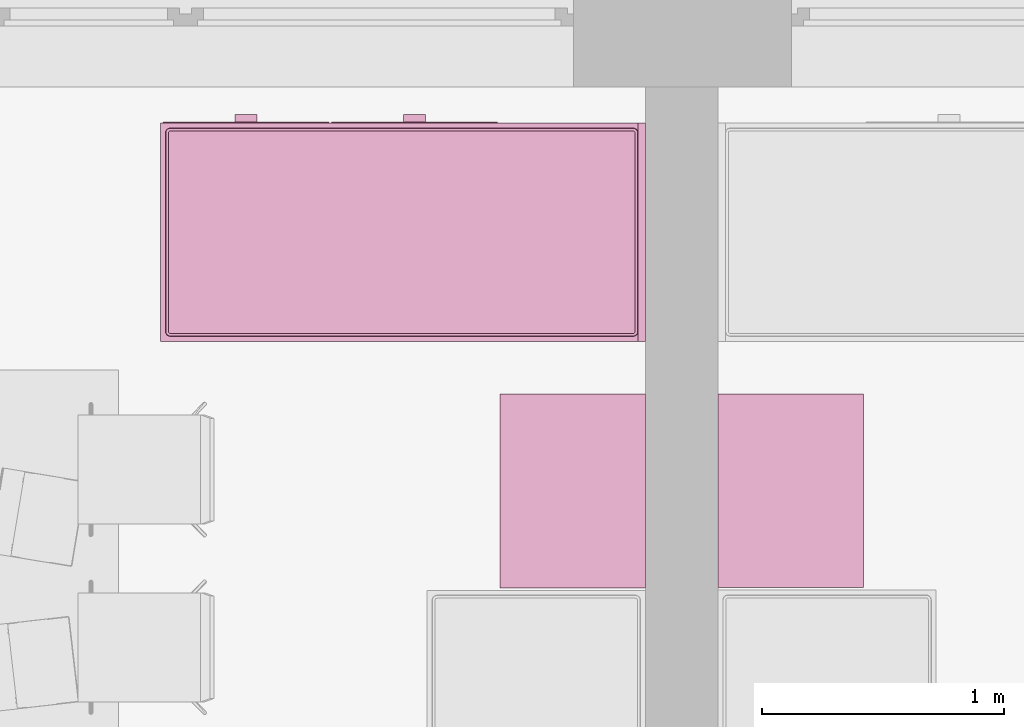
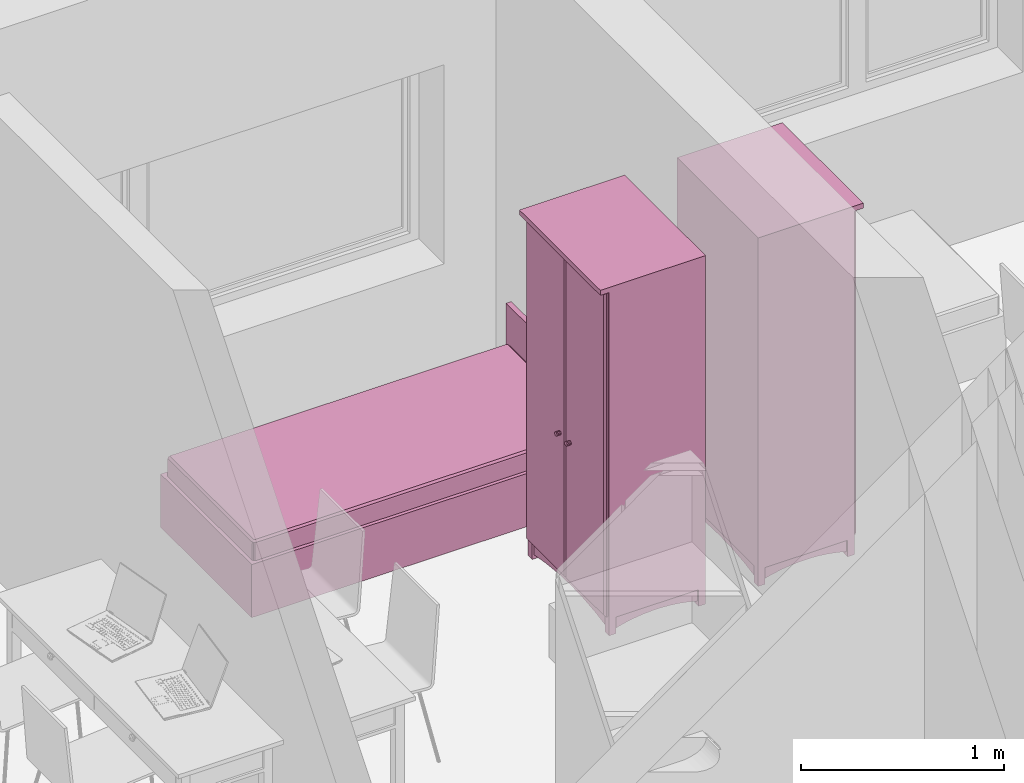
# One storey, part 132 of 165: 3 furnishings.
"""IFC2X3 building model written with IfcOpenShell, lengths in millimetres."""

from ifc_helpers import new_model, entity, si_unit, converted_unit, money_unit, direction, frame, origin_with_axes, place, context, subcontext, project, spatial, faceted_brep, source, transform, mapped, material, material_list, type_object, element, save


model = new_model("IFC2X3")

# Units and contexts
model_context = context("Model", 3, precision=1e-05, world=origin_with_axes(), true_north=direction((0.0, 1.0)))
body_context = subcontext(model_context, "Body", "Model", "MODEL_VIEW")
ifc_project = project(units=[si_unit("LENGTHUNIT", "METRE", prefix="MILLI"), si_unit("AREAUNIT", "SQUARE_METRE"), si_unit("VOLUMEUNIT", "CUBIC_METRE"), converted_unit("PLANEANGLEUNIT", "DEGREE", entity("IfcPlaneAngleMeasure", 0.0174532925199), si_unit("PLANEANGLEUNIT", "RADIAN"), dimensions=[0, 0, 0, 0, 0, 0, 0]), si_unit("SOLIDANGLEUNIT", "STERADIAN"), money_unit("USD"), converted_unit("TIMEUNIT", "Year", entity("IfcTimeMeasure", 31556926.0), si_unit("TIMEUNIT", "SECOND"), dimensions=[0, 0, 0, 0, 0, 0, 0]), si_unit("MASSUNIT", "GRAM"), si_unit("THERMODYNAMICTEMPERATUREUNIT", "DEGREE_CELSIUS"), si_unit("LUMINOUSINTENSITYUNIT", "LUMEN")], contexts=[model_context])

# Site, building, storey
site_placement = place(None, origin_with_axes())
site = spatial("IfcSite", under=ifc_project, at=site_placement, Name="Site", CompositionType="ELEMENT")
building_placement = place(site_placement, origin_with_axes())
building = spatial("IfcBuilding", under=site, at=building_placement, Name="Building", CompositionType="ELEMENT")
storey_placement = place(building_placement, frame((0.0, 0.0, 6300.0), z_axis=(0.0, 0.0, 1.0), x_axis=(1.0, 0.0, 0.0)))
storey = spatial("IfcBuildingStorey", under=building, at=storey_placement, Name="4KORRUS", CompositionType="ELEMENT", Elevation=6300.0)

# Furnishings
ifc_material = material(Name="Background")
ifc_material_list = material_list([ifc_material])
furnishing_element_type_1 = type_object("IfcFurnishingElementType", Name="Cupboard 19")
shared_shape_1 = source(origin_with_axes(), body_context, "Body", "Brep", [
    faceted_brep([(780.0, 600.0, 120.0), (780.0, 600.0, 2050.0), (780.0, 580.0, 2050.0), (780.0, 580.0, 120.0), (20.0, 600.0, 120.0), (20.0, 600.0, 2050.0), (20.0, 580.0, 2050.0), (20.0, 580.0, 120.0)], [[[0, 1, 2, 3]], [[4, 5, 1, 0]], [[1, 5, 6, 2]], [[3, 2, 6, 7]], [[0, 3, 7, 4]], [[7, 6, 5, 4]]]),
    faceted_brep([(0.0, 50.0, 100.0), (0.0, 600.0, 100.0), (20.0, 600.0, 100.0), (20.0, 50.0, 100.0), (0.0, 50.0, 2070.0), (0.0, 600.0, 2070.0), (20.0, 600.0, 2070.0), (20.0, 50.0, 2070.0)], [[[0, 1, 2, 3]], [[0, 4, 5, 1]], [[1, 5, 6, 2]], [[2, 6, 7, 3]], [[3, 7, 4, 0]], [[7, 6, 5, 4]]]),
    faceted_brep([(780.0, 50.0, 100.0), (780.0, 600.0, 100.0), (800.0, 600.0, 100.0), (800.0, 50.0, 100.0), (780.0, 50.0, 2070.0), (780.0, 600.0, 2070.0), (800.0, 600.0, 2070.0), (800.0, 50.0, 2070.0)], [[[0, 1, 2, 3]], [[0, 4, 5, 1]], [[1, 5, 6, 2]], [[2, 6, 7, 3]], [[3, 7, 4, 0]], [[7, 6, 5, 4]]]),
    faceted_brep([(20.0, 50.0, 100.0), (20.0, 600.0, 100.0), (780.0, 600.0, 100.0), (780.0, 50.0, 100.0), (20.0, 50.0, 120.0), (20.0, 600.0, 120.0), (780.0, 600.0, 120.0), (780.0, 50.0, 120.0)], [[[0, 1, 2, 3]], [[0, 4, 5, 1]], [[1, 5, 6, 2]], [[2, 6, 7, 3]], [[3, 7, 4, 0]], [[7, 6, 5, 4]]]),
    faceted_brep([(20.0, 50.0, 2050.0), (20.0, 600.0, 2050.0), (780.0, 600.0, 2050.0), (780.0, 50.0, 2050.0), (20.0, 50.0, 2070.0), (20.0, 600.0, 2070.0), (780.0, 600.0, 2070.0), (780.0, 50.0, 2070.0)], [[[0, 1, 2, 3]], [[0, 4, 5, 1]], [[1, 5, 6, 2]], [[2, 6, 7, 3]], [[3, 7, 4, 0]], [[7, 6, 5, 4]]]),
    faceted_brep([(0.0, 600.0, 2070.0), (0.0, 0.0, 2070.0), (0.0, 0.0, 2100.0), (0.0, 600.0, 2100.0), (800.0, 600.0, 2070.0), (800.0, 0.0, 2070.0), (800.0, 0.0, 2100.0), (800.0, 600.0, 2100.0)], [[[0, 1, 2, 3]], [[0, 4, 5, 1]], [[1, 5, 6, 2]], [[3, 2, 6, 7]], [[4, 0, 3, 7]], [[5, 4, 7, 6]]]),
    faceted_brep([(760.0, 590.0, 25.0), (760.0, 570.0, 25.0), (640.962, 570.0, 45.8), (640.962, 590.0, 45.8), (760.0, 590.0, 100.0), (760.0, 570.0, 100.0), (40.0, 570.0, 100.0), (40.0, 570.0, 25.0), (159.038, 570.0, 45.8), (279.23, 570.0, 58.32), (400.0, 570.0, 62.5), (520.77, 570.0, 58.32), (520.77, 590.0, 58.32), (400.0, 590.0, 62.5), (279.23, 590.0, 58.32), (159.038, 590.0, 45.8), (40.0, 590.0, 25.0), (40.0, 590.0, 100.0)], [[[0, 1, 2, 3]], [[4, 5, 1, 0]], [[1, 5, 6, 7, 8, 9, 10, 11, 2]], [[3, 2, 11, 12]], [[0, 3, 12, 13, 14, 15, 16, 17, 4]], [[17, 6, 5, 4]], [[16, 7, 6, 17]], [[15, 8, 7, 16]], [[14, 9, 8, 15]], [[13, 10, 9, 14]], [[12, 11, 10, 13]]]),
    faceted_brep([(760.0, 80.0, 25.0), (760.0, 60.0, 25.0), (640.962, 60.0, 45.8), (640.962, 80.0, 45.8), (760.0, 80.0, 100.0), (760.0, 60.0, 100.0), (40.0, 60.0, 100.0), (40.0, 60.0, 25.0), (159.038, 60.0, 45.8), (279.23, 60.0, 58.32), (400.0, 60.0, 62.5), (520.77, 60.0, 58.32), (520.77, 80.0, 58.32), (400.0, 80.0, 62.5), (279.23, 80.0, 58.32), (159.038, 80.0, 45.8), (40.0, 80.0, 25.0), (40.0, 80.0, 100.0)], [[[0, 1, 2, 3]], [[4, 5, 1, 0]], [[1, 5, 6, 7, 8, 9, 10, 11, 2]], [[3, 2, 11, 12]], [[0, 3, 12, 13, 14, 15, 16, 17, 4]], [[17, 6, 5, 4]], [[16, 7, 6, 17]], [[15, 8, 7, 16]], [[14, 9, 8, 15]], [[13, 10, 9, 14]], [[12, 11, 10, 13]]]),
    faceted_brep([(790.0, 90.0, 25.0), (770.0, 90.0, 25.0), (770.0, 141.266, 38.072), (790.0, 141.266, 38.072), (790.0, 90.0, 100.0), (770.0, 90.0, 100.0), (770.0, 560.0, 100.0), (770.0, 560.0, 25.0), (770.0, 508.734, 38.072), (770.0, 456.752, 47.92), (770.0, 404.257, 54.508), (770.0, 351.453, 57.808), (770.0, 298.547, 57.808), (770.0, 245.743, 54.508), (770.0, 193.248, 47.92), (790.0, 193.248, 47.92), (790.0, 245.743, 54.508), (790.0, 298.547, 57.808), (790.0, 351.453, 57.808), (790.0, 404.257, 54.508), (790.0, 456.752, 47.92), (790.0, 508.734, 38.072), (790.0, 560.0, 25.0), (790.0, 560.0, 100.0)], [[[0, 1, 2, 3]], [[4, 5, 1, 0]], [[1, 5, 6, 7, 8, 9, 10, 11, 12, 13, 14, 2]], [[3, 2, 14, 15]], [[0, 3, 15, 16, 17, 18, 19, 20, 21, 22, 23, 4]], [[23, 6, 5, 4]], [[22, 7, 6, 23]], [[21, 8, 7, 22]], [[20, 9, 8, 21]], [[19, 10, 9, 20]], [[18, 11, 10, 19]], [[17, 12, 11, 18]], [[16, 13, 12, 17]], [[15, 14, 13, 16]]]),
    faceted_brep([(30.0, 90.0, 25.0), (10.0, 90.0, 25.0), (10.0, 141.266, 38.072), (30.0, 141.266, 38.072), (30.0, 90.0, 100.0), (10.0, 90.0, 100.0), (10.0, 560.0, 100.0), (10.0, 560.0, 25.0), (10.0, 508.734, 38.072), (10.0, 456.752, 47.92), (10.0, 404.257, 54.508), (10.0, 351.453, 57.808), (10.0, 298.547, 57.808), (10.0, 245.743, 54.508), (10.0, 193.248, 47.92), (30.0, 193.248, 47.92), (30.0, 245.743, 54.508), (30.0, 298.547, 57.808), (30.0, 351.453, 57.808), (30.0, 404.257, 54.508), (30.0, 456.752, 47.92), (30.0, 508.734, 38.072), (30.0, 560.0, 25.0), (30.0, 560.0, 100.0)], [[[0, 1, 2, 3]], [[4, 5, 1, 0]], [[1, 5, 6, 7, 8, 9, 10, 11, 12, 13, 14, 2]], [[3, 2, 14, 15]], [[0, 3, 15, 16, 17, 18, 19, 20, 21, 22, 23, 4]], [[23, 6, 5, 4]], [[22, 7, 6, 23]], [[21, 8, 7, 22]], [[20, 9, 8, 21]], [[19, 10, 9, 20]], [[18, 11, 10, 19]], [[17, 12, 11, 18]], [[16, 13, 12, 17]], [[15, 14, 13, 16]]]),
    faceted_brep([(760.0, 560.0, 0.0), (760.0, 560.0, 100.0), (760.0, 600.0, 100.0), (760.0, 600.0, 0.0), (800.0, 560.0, 0.0), (800.0, 560.0, 100.0), (800.0, 600.0, 100.0), (800.0, 600.0, 0.0)], [[[0, 1, 2, 3]], [[4, 5, 1, 0]], [[1, 5, 6, 2]], [[3, 2, 6, 7]], [[0, 3, 7, 4]], [[7, 6, 5, 4]]]),
    faceted_brep([(0.0, 560.0, 0.0), (0.0, 560.0, 100.0), (0.0, 600.0, 100.0), (0.0, 600.0, 0.0), (40.0, 560.0, 0.0), (40.0, 560.0, 100.0), (40.0, 600.0, 100.0), (40.0, 600.0, 0.0)], [[[0, 1, 2, 3]], [[4, 5, 1, 0]], [[1, 5, 6, 2]], [[3, 2, 6, 7]], [[0, 3, 7, 4]], [[7, 6, 5, 4]]]),
    faceted_brep([(760.0, 50.0, 0.0), (760.0, 50.0, 100.0), (760.0, 90.0, 100.0), (760.0, 90.0, 0.0), (800.0, 50.0, 0.0), (800.0, 50.0, 100.0), (800.0, 90.0, 100.0), (800.0, 90.0, 0.0)], [[[0, 1, 2, 3]], [[4, 5, 1, 0]], [[1, 5, 6, 2]], [[3, 2, 6, 7]], [[0, 3, 7, 4]], [[7, 6, 5, 4]]]),
    faceted_brep([(0.0, 50.0, 0.0), (0.0, 50.0, 100.0), (0.0, 90.0, 100.0), (0.0, 90.0, 0.0), (40.0, 50.0, 0.0), (40.0, 50.0, 100.0), (40.0, 90.0, 100.0), (40.0, 90.0, 0.0)], [[[0, 1, 2, 3]], [[4, 5, 1, 0]], [[1, 5, 6, 2]], [[3, 2, 6, 7]], [[0, 3, 7, 4]], [[7, 6, 5, 4]]]),
    faceted_brep([(780.0, 580.0, 587.5), (780.0, 580.0, 607.5), (780.0, 50.0, 607.5), (780.0, 50.0, 587.5), (20.0, 580.0, 587.5), (20.0, 580.0, 607.5), (20.0, 50.0, 607.5), (20.0, 50.0, 587.5)], [[[0, 1, 2, 3]], [[4, 5, 1, 0]], [[1, 5, 6, 2]], [[3, 2, 6, 7]], [[0, 3, 7, 4]], [[7, 6, 5, 4]]]),
    faceted_brep([(780.0, 580.0, 1075.0), (780.0, 580.0, 1095.0), (780.0, 50.0, 1095.0), (780.0, 50.0, 1075.0), (20.0, 580.0, 1075.0), (20.0, 580.0, 1095.0), (20.0, 50.0, 1095.0), (20.0, 50.0, 1075.0)], [[[0, 1, 2, 3]], [[4, 5, 1, 0]], [[1, 5, 6, 2]], [[3, 2, 6, 7]], [[0, 3, 7, 4]], [[7, 6, 5, 4]]]),
    faceted_brep([(780.0, 580.0, 1562.5), (780.0, 580.0, 1582.5), (780.0, 50.0, 1582.5), (780.0, 50.0, 1562.5), (20.0, 580.0, 1562.5), (20.0, 580.0, 1582.5), (20.0, 50.0, 1582.5), (20.0, 50.0, 1562.5)], [[[0, 1, 2, 3]], [[4, 5, 1, 0]], [[1, 5, 6, 2]], [[3, 2, 6, 7]], [[0, 3, 7, 4]], [[7, 6, 5, 4]]]),
    faceted_brep([(789.5, 50.0, 110.5), (400.5, 50.0, 110.5), (400.5, 50.0, 2059.5), (789.5, 50.0, 2059.5), (789.5, 40.0, 110.5), (400.5, 40.0, 110.5), (400.5, 40.0, 2059.5), (789.5, 40.0, 2059.5), (779.5, 30.0, 120.5), (410.5, 30.0, 120.5), (410.5, 30.0, 2049.5), (779.5, 30.0, 2049.5)], [[[0, 1, 2, 3]], [[0, 4, 5, 1]], [[1, 5, 6, 2]], [[2, 6, 7, 3]], [[3, 7, 4, 0]], [[4, 8, 9, 5]], [[5, 9, 10, 6]], [[6, 10, 11, 7]], [[7, 11, 8, 4]], [[10, 9, 8, 11]]]),
    faceted_brep([(399.5, 50.0, 110.5), (10.5, 50.0, 110.5), (10.5, 50.0, 2059.5), (399.5, 50.0, 2059.5), (399.5, 40.0, 110.5), (10.5, 40.0, 110.5), (10.5, 40.0, 2059.5), (399.5, 40.0, 2059.5), (389.5, 30.0, 120.5), (20.5, 30.0, 120.5), (20.5, 30.0, 2049.5), (389.5, 30.0, 2049.5)], [[[0, 1, 2, 3]], [[0, 4, 5, 1]], [[1, 5, 6, 2]], [[2, 6, 7, 3]], [[3, 7, 4, 0]], [[4, 8, 9, 5]], [[5, 9, 10, 6]], [[6, 10, 11, 7]], [[7, 11, 8, 4]], [[10, 9, 8, 11]]]),
    faceted_brep([(339.608, 30.0, 954.0), (338.0, 30.0, 960.0), (339.608, 30.0, 966.0), (344.0, 30.0, 970.392), (350.0, 30.0, 972.0), (356.0, 30.0, 970.392), (360.392, 30.0, 966.0), (362.0, 30.0, 960.0), (360.392, 30.0, 954.0), (356.0, 30.0, 949.608), (350.0, 30.0, 948.0), (344.0, 30.0, 949.608), (339.608, 5.0, 954.0), (338.0, 5.0, 960.0), (339.608, 5.0, 966.0), (344.0, 5.0, 970.392), (350.0, 5.0, 972.0), (356.0, 5.0, 970.392), (360.392, 5.0, 966.0), (362.0, 5.0, 960.0), (360.392, 5.0, 954.0), (356.0, 5.0, 949.608), (350.0, 5.0, 948.0), (344.0, 5.0, 949.608)], [[[0, 1, 2, 3, 4, 5, 6, 7, 8, 9, 10, 11]], [[0, 12, 13, 1]], [[1, 13, 14, 2]], [[2, 14, 15, 3]], [[3, 15, 16, 4]], [[4, 16, 17, 5]], [[5, 17, 18, 6]], [[6, 18, 19, 7]], [[7, 19, 20, 8]], [[8, 20, 21, 9]], [[9, 21, 22, 10]], [[10, 22, 23, 11]], [[11, 23, 12, 0]], [[12, 23, 22, 21, 20, 19, 18, 17, 16, 15, 14, 13]]]),
    faceted_brep([(460.392, 30.0, 954.0), (456.0, 30.0, 949.608), (450.0, 30.0, 948.0), (444.0, 30.0, 949.608), (439.608, 30.0, 954.0), (438.0, 30.0, 960.0), (439.608, 30.0, 966.0), (444.0, 30.0, 970.392), (450.0, 30.0, 972.0), (456.0, 30.0, 970.392), (460.392, 30.0, 966.0), (462.0, 30.0, 960.0), (460.392, 5.0, 954.0), (456.0, 5.0, 949.608), (450.0, 5.0, 948.0), (444.0, 5.0, 949.608), (439.608, 5.0, 954.0), (438.0, 5.0, 960.0), (439.608, 5.0, 966.0), (444.0, 5.0, 970.392), (450.0, 5.0, 972.0), (456.0, 5.0, 970.392), (460.392, 5.0, 966.0), (462.0, 5.0, 960.0)], [[[0, 1, 2, 3, 4, 5, 6, 7, 8, 9, 10, 11]], [[1, 0, 12, 13]], [[2, 1, 13, 14]], [[3, 2, 14, 15]], [[4, 3, 15, 16]], [[5, 4, 16, 17]], [[6, 5, 17, 18]], [[7, 6, 18, 19]], [[8, 7, 19, 20]], [[9, 8, 20, 21]], [[10, 9, 21, 22]], [[11, 10, 22, 23]], [[0, 11, 23, 12]], [[12, 23, 22, 21, 20, 19, 18, 17, 16, 15, 14, 13]]]),
])
furnishing_1_placement = place(storey_placement, frame((609.703296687, -7206.41563755, 0.0), z_axis=(0.0, 0.0, 1.0), x_axis=(0.0, 1.0, 0.0)))
element("IfcFurnishingElement", 1, at=furnishing_1_placement, inside=storey, type_object=furnishing_element_type_1, material=ifc_material_list, Name="FU - 014", context=body_context, shape_type="MappedRepresentation", body=[
    mapped(shared_shape_1, transform((0.0, 0.0, 0.0))),
])
shared_shape_2 = source(origin_with_axes(), body_context, "Body", "Brep", [
    faceted_brep([(-780.0, 600.0, 120.0), (-780.0, 580.0, 120.0), (-780.0, 580.0, 2050.0), (-780.0, 600.0, 2050.0), (-20.0, 600.0, 120.0), (-20.0, 580.0, 120.0), (-20.0, 580.0, 2050.0), (-20.0, 600.0, 2050.0)], [[[0, 1, 2, 3]], [[0, 4, 5, 1]], [[1, 5, 6, 2]], [[3, 2, 6, 7]], [[4, 0, 3, 7]], [[5, 4, 7, 6]]]),
    faceted_brep([(0.0, 50.0, 100.0), (-20.0, 50.0, 100.0), (-20.0, 600.0, 100.0), (0.0, 600.0, 100.0), (0.0, 50.0, 2070.0), (-20.0, 50.0, 2070.0), (-20.0, 600.0, 2070.0), (0.0, 600.0, 2070.0)], [[[0, 1, 2, 3]], [[1, 0, 4, 5]], [[2, 1, 5, 6]], [[3, 2, 6, 7]], [[0, 3, 7, 4]], [[5, 4, 7, 6]]]),
    faceted_brep([(-780.0, 50.0, 100.0), (-800.0, 50.0, 100.0), (-800.0, 600.0, 100.0), (-780.0, 600.0, 100.0), (-780.0, 50.0, 2070.0), (-800.0, 50.0, 2070.0), (-800.0, 600.0, 2070.0), (-780.0, 600.0, 2070.0)], [[[0, 1, 2, 3]], [[1, 0, 4, 5]], [[2, 1, 5, 6]], [[3, 2, 6, 7]], [[0, 3, 7, 4]], [[5, 4, 7, 6]]]),
    faceted_brep([(-20.0, 50.0, 100.0), (-780.0, 50.0, 100.0), (-780.0, 600.0, 100.0), (-20.0, 600.0, 100.0), (-20.0, 50.0, 120.0), (-780.0, 50.0, 120.0), (-780.0, 600.0, 120.0), (-20.0, 600.0, 120.0)], [[[0, 1, 2, 3]], [[1, 0, 4, 5]], [[2, 1, 5, 6]], [[3, 2, 6, 7]], [[0, 3, 7, 4]], [[5, 4, 7, 6]]]),
    faceted_brep([(-20.0, 50.0, 2050.0), (-780.0, 50.0, 2050.0), (-780.0, 600.0, 2050.0), (-20.0, 600.0, 2050.0), (-20.0, 50.0, 2070.0), (-780.0, 50.0, 2070.0), (-780.0, 600.0, 2070.0), (-20.0, 600.0, 2070.0)], [[[0, 1, 2, 3]], [[1, 0, 4, 5]], [[2, 1, 5, 6]], [[3, 2, 6, 7]], [[0, 3, 7, 4]], [[5, 4, 7, 6]]]),
    faceted_brep([(0.0, 600.0, 2070.0), (0.0, 600.0, 2100.0), (0.0, 0.0, 2100.0), (0.0, 0.0, 2070.0), (-800.0, 600.0, 2070.0), (-800.0, 600.0, 2100.0), (-800.0, 0.0, 2100.0), (-800.0, 0.0, 2070.0)], [[[0, 1, 2, 3]], [[4, 5, 1, 0]], [[1, 5, 6, 2]], [[3, 2, 6, 7]], [[0, 3, 7, 4]], [[7, 6, 5, 4]]]),
    faceted_brep([(-760.0, 590.0, 25.0), (-640.962, 590.0, 45.8), (-640.962, 570.0, 45.8), (-760.0, 570.0, 25.0), (-760.0, 590.0, 100.0), (-40.0, 590.0, 100.0), (-40.0, 590.0, 25.0), (-159.038, 590.0, 45.8), (-279.23, 590.0, 58.32), (-400.0, 590.0, 62.5), (-520.77, 590.0, 58.32), (-520.77, 570.0, 58.32), (-400.0, 570.0, 62.5), (-279.23, 570.0, 58.32), (-159.038, 570.0, 45.8), (-40.0, 570.0, 25.0), (-40.0, 570.0, 100.0), (-760.0, 570.0, 100.0)], [[[0, 1, 2, 3]], [[0, 4, 5, 6, 7, 8, 9, 10, 1]], [[1, 10, 11, 2]], [[3, 2, 11, 12, 13, 14, 15, 16, 17]], [[4, 0, 3, 17]], [[5, 4, 17, 16]], [[6, 5, 16, 15]], [[7, 6, 15, 14]], [[8, 7, 14, 13]], [[9, 8, 13, 12]], [[10, 9, 12, 11]]]),
    faceted_brep([(-760.0, 80.0, 25.0), (-640.962, 80.0, 45.8), (-640.962, 60.0, 45.8), (-760.0, 60.0, 25.0), (-760.0, 80.0, 100.0), (-40.0, 80.0, 100.0), (-40.0, 80.0, 25.0), (-159.038, 80.0, 45.8), (-279.23, 80.0, 58.32), (-400.0, 80.0, 62.5), (-520.77, 80.0, 58.32), (-520.77, 60.0, 58.32), (-400.0, 60.0, 62.5), (-279.23, 60.0, 58.32), (-159.038, 60.0, 45.8), (-40.0, 60.0, 25.0), (-40.0, 60.0, 100.0), (-760.0, 60.0, 100.0)], [[[0, 1, 2, 3]], [[0, 4, 5, 6, 7, 8, 9, 10, 1]], [[1, 10, 11, 2]], [[3, 2, 11, 12, 13, 14, 15, 16, 17]], [[4, 0, 3, 17]], [[5, 4, 17, 16]], [[6, 5, 16, 15]], [[7, 6, 15, 14]], [[8, 7, 14, 13]], [[9, 8, 13, 12]], [[10, 9, 12, 11]]]),
    faceted_brep([(-790.0, 90.0, 25.0), (-790.0, 141.266, 38.072), (-770.0, 141.266, 38.072), (-770.0, 90.0, 25.0), (-790.0, 90.0, 100.0), (-790.0, 560.0, 100.0), (-790.0, 560.0, 25.0), (-790.0, 508.734, 38.072), (-790.0, 456.752, 47.92), (-790.0, 404.257, 54.508), (-790.0, 351.453, 57.808), (-790.0, 298.547, 57.808), (-790.0, 245.743, 54.508), (-790.0, 193.248, 47.92), (-770.0, 193.248, 47.92), (-770.0, 245.743, 54.508), (-770.0, 298.547, 57.808), (-770.0, 351.453, 57.808), (-770.0, 404.257, 54.508), (-770.0, 456.752, 47.92), (-770.0, 508.734, 38.072), (-770.0, 560.0, 25.0), (-770.0, 560.0, 100.0), (-770.0, 90.0, 100.0)], [[[0, 1, 2, 3]], [[0, 4, 5, 6, 7, 8, 9, 10, 11, 12, 13, 1]], [[1, 13, 14, 2]], [[3, 2, 14, 15, 16, 17, 18, 19, 20, 21, 22, 23]], [[4, 0, 3, 23]], [[5, 4, 23, 22]], [[6, 5, 22, 21]], [[7, 6, 21, 20]], [[8, 7, 20, 19]], [[9, 8, 19, 18]], [[10, 9, 18, 17]], [[11, 10, 17, 16]], [[12, 11, 16, 15]], [[13, 12, 15, 14]]]),
    faceted_brep([(-30.0, 90.0, 25.0), (-30.0, 141.266, 38.072), (-10.0, 141.266, 38.072), (-10.0, 90.0, 25.0), (-30.0, 90.0, 100.0), (-30.0, 560.0, 100.0), (-30.0, 560.0, 25.0), (-30.0, 508.734, 38.072), (-30.0, 456.752, 47.92), (-30.0, 404.257, 54.508), (-30.0, 351.453, 57.808), (-30.0, 298.547, 57.808), (-30.0, 245.743, 54.508), (-30.0, 193.248, 47.92), (-10.0, 193.248, 47.92), (-10.0, 245.743, 54.508), (-10.0, 298.547, 57.808), (-10.0, 351.453, 57.808), (-10.0, 404.257, 54.508), (-10.0, 456.752, 47.92), (-10.0, 508.734, 38.072), (-10.0, 560.0, 25.0), (-10.0, 560.0, 100.0), (-10.0, 90.0, 100.0)], [[[0, 1, 2, 3]], [[0, 4, 5, 6, 7, 8, 9, 10, 11, 12, 13, 1]], [[1, 13, 14, 2]], [[3, 2, 14, 15, 16, 17, 18, 19, 20, 21, 22, 23]], [[4, 0, 3, 23]], [[5, 4, 23, 22]], [[6, 5, 22, 21]], [[7, 6, 21, 20]], [[8, 7, 20, 19]], [[9, 8, 19, 18]], [[10, 9, 18, 17]], [[11, 10, 17, 16]], [[12, 11, 16, 15]], [[13, 12, 15, 14]]]),
    faceted_brep([(-760.0, 560.0, 0.0), (-760.0, 600.0, 0.0), (-760.0, 600.0, 100.0), (-760.0, 560.0, 100.0), (-800.0, 560.0, 0.0), (-800.0, 600.0, 0.0), (-800.0, 600.0, 100.0), (-800.0, 560.0, 100.0)], [[[0, 1, 2, 3]], [[0, 4, 5, 1]], [[1, 5, 6, 2]], [[3, 2, 6, 7]], [[4, 0, 3, 7]], [[5, 4, 7, 6]]]),
    faceted_brep([(0.0, 560.0, 0.0), (0.0, 600.0, 0.0), (0.0, 600.0, 100.0), (0.0, 560.0, 100.0), (-40.0, 560.0, 0.0), (-40.0, 600.0, 0.0), (-40.0, 600.0, 100.0), (-40.0, 560.0, 100.0)], [[[0, 1, 2, 3]], [[0, 4, 5, 1]], [[1, 5, 6, 2]], [[3, 2, 6, 7]], [[4, 0, 3, 7]], [[5, 4, 7, 6]]]),
    faceted_brep([(-760.0, 50.0, 0.0), (-760.0, 90.0, 0.0), (-760.0, 90.0, 100.0), (-760.0, 50.0, 100.0), (-800.0, 50.0, 0.0), (-800.0, 90.0, 0.0), (-800.0, 90.0, 100.0), (-800.0, 50.0, 100.0)], [[[0, 1, 2, 3]], [[0, 4, 5, 1]], [[1, 5, 6, 2]], [[3, 2, 6, 7]], [[4, 0, 3, 7]], [[5, 4, 7, 6]]]),
    faceted_brep([(0.0, 50.0, 0.0), (0.0, 90.0, 0.0), (0.0, 90.0, 100.0), (0.0, 50.0, 100.0), (-40.0, 50.0, 0.0), (-40.0, 90.0, 0.0), (-40.0, 90.0, 100.0), (-40.0, 50.0, 100.0)], [[[0, 1, 2, 3]], [[0, 4, 5, 1]], [[1, 5, 6, 2]], [[3, 2, 6, 7]], [[4, 0, 3, 7]], [[5, 4, 7, 6]]]),
    faceted_brep([(-780.0, 580.0, 587.5), (-780.0, 50.0, 587.5), (-780.0, 50.0, 607.5), (-780.0, 580.0, 607.5), (-20.0, 580.0, 587.5), (-20.0, 50.0, 587.5), (-20.0, 50.0, 607.5), (-20.0, 580.0, 607.5)], [[[0, 1, 2, 3]], [[0, 4, 5, 1]], [[1, 5, 6, 2]], [[3, 2, 6, 7]], [[4, 0, 3, 7]], [[5, 4, 7, 6]]]),
    faceted_brep([(-780.0, 580.0, 1075.0), (-780.0, 50.0, 1075.0), (-780.0, 50.0, 1095.0), (-780.0, 580.0, 1095.0), (-20.0, 580.0, 1075.0), (-20.0, 50.0, 1075.0), (-20.0, 50.0, 1095.0), (-20.0, 580.0, 1095.0)], [[[0, 1, 2, 3]], [[0, 4, 5, 1]], [[1, 5, 6, 2]], [[3, 2, 6, 7]], [[4, 0, 3, 7]], [[5, 4, 7, 6]]]),
    faceted_brep([(-780.0, 580.0, 1562.5), (-780.0, 50.0, 1562.5), (-780.0, 50.0, 1582.5), (-780.0, 580.0, 1582.5), (-20.0, 580.0, 1562.5), (-20.0, 50.0, 1562.5), (-20.0, 50.0, 1582.5), (-20.0, 580.0, 1582.5)], [[[0, 1, 2, 3]], [[0, 4, 5, 1]], [[1, 5, 6, 2]], [[3, 2, 6, 7]], [[4, 0, 3, 7]], [[5, 4, 7, 6]]]),
    faceted_brep([(-789.5, 50.0, 110.5), (-789.5, 50.0, 2059.5), (-400.5, 50.0, 2059.5), (-400.5, 50.0, 110.5), (-789.5, 40.0, 110.5), (-789.5, 40.0, 2059.5), (-400.5, 40.0, 2059.5), (-400.5, 40.0, 110.5), (-779.5, 30.0, 120.5), (-779.5, 30.0, 2049.5), (-410.5, 30.0, 2049.5), (-410.5, 30.0, 120.5)], [[[0, 1, 2, 3]], [[1, 0, 4, 5]], [[2, 1, 5, 6]], [[3, 2, 6, 7]], [[0, 3, 7, 4]], [[5, 4, 8, 9]], [[6, 5, 9, 10]], [[7, 6, 10, 11]], [[4, 7, 11, 8]], [[10, 9, 8, 11]]]),
    faceted_brep([(-399.5, 50.0, 110.5), (-399.5, 50.0, 2059.5), (-10.5, 50.0, 2059.5), (-10.5, 50.0, 110.5), (-399.5, 40.0, 110.5), (-399.5, 40.0, 2059.5), (-10.5, 40.0, 2059.5), (-10.5, 40.0, 110.5), (-389.5, 30.0, 120.5), (-389.5, 30.0, 2049.5), (-20.5, 30.0, 2049.5), (-20.5, 30.0, 120.5)], [[[0, 1, 2, 3]], [[1, 0, 4, 5]], [[2, 1, 5, 6]], [[3, 2, 6, 7]], [[0, 3, 7, 4]], [[5, 4, 8, 9]], [[6, 5, 9, 10]], [[7, 6, 10, 11]], [[4, 7, 11, 8]], [[10, 9, 8, 11]]]),
    faceted_brep([(-339.608, 30.0, 954.0), (-344.0, 30.0, 949.608), (-350.0, 30.0, 948.0), (-356.0, 30.0, 949.608), (-360.392, 30.0, 954.0), (-362.0, 30.0, 960.0), (-360.392, 30.0, 966.0), (-356.0, 30.0, 970.392), (-350.0, 30.0, 972.0), (-344.0, 30.0, 970.392), (-339.608, 30.0, 966.0), (-338.0, 30.0, 960.0), (-339.608, 5.0, 954.0), (-344.0, 5.0, 949.608), (-350.0, 5.0, 948.0), (-356.0, 5.0, 949.608), (-360.392, 5.0, 954.0), (-362.0, 5.0, 960.0), (-360.392, 5.0, 966.0), (-356.0, 5.0, 970.392), (-350.0, 5.0, 972.0), (-344.0, 5.0, 970.392), (-339.608, 5.0, 966.0), (-338.0, 5.0, 960.0)], [[[0, 1, 2, 3, 4, 5, 6, 7, 8, 9, 10, 11]], [[1, 0, 12, 13]], [[2, 1, 13, 14]], [[3, 2, 14, 15]], [[4, 3, 15, 16]], [[5, 4, 16, 17]], [[6, 5, 17, 18]], [[7, 6, 18, 19]], [[8, 7, 19, 20]], [[9, 8, 20, 21]], [[10, 9, 21, 22]], [[11, 10, 22, 23]], [[0, 11, 23, 12]], [[12, 23, 22, 21, 20, 19, 18, 17, 16, 15, 14, 13]]]),
    faceted_brep([(-460.392, 30.0, 954.0), (-462.0, 30.0, 960.0), (-460.392, 30.0, 966.0), (-456.0, 30.0, 970.392), (-450.0, 30.0, 972.0), (-444.0, 30.0, 970.392), (-439.608, 30.0, 966.0), (-438.0, 30.0, 960.0), (-439.608, 30.0, 954.0), (-444.0, 30.0, 949.608), (-450.0, 30.0, 948.0), (-456.0, 30.0, 949.608), (-460.392, 5.0, 954.0), (-462.0, 5.0, 960.0), (-460.392, 5.0, 966.0), (-456.0, 5.0, 970.392), (-450.0, 5.0, 972.0), (-444.0, 5.0, 970.392), (-439.608, 5.0, 966.0), (-438.0, 5.0, 960.0), (-439.608, 5.0, 954.0), (-444.0, 5.0, 949.608), (-450.0, 5.0, 948.0), (-456.0, 5.0, 949.608)], [[[0, 1, 2, 3, 4, 5, 6, 7, 8, 9, 10, 11]], [[0, 12, 13, 1]], [[1, 13, 14, 2]], [[2, 14, 15, 3]], [[3, 15, 16, 4]], [[4, 16, 17, 5]], [[5, 17, 18, 6]], [[6, 18, 19, 7]], [[7, 19, 20, 8]], [[8, 20, 21, 9]], [[9, 21, 22, 10]], [[10, 22, 23, 11]], [[11, 23, 12, 0]], [[12, 23, 22, 21, 20, 19, 18, 17, 16, 15, 14, 13]]]),
])
furnishing_2_placement = place(storey_placement, frame((-890.296703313, -7207.41563755, 0.0), z_axis=(0.0, 0.0, 1.0), x_axis=(0.0, -1.0, 0.0)))
element("IfcFurnishingElement", 2, at=furnishing_2_placement, inside=storey, type_object=furnishing_element_type_1, material=ifc_material_list, Name="FU - 014", context=body_context, shape_type="MappedRepresentation", body=[
    mapped(shared_shape_2, transform((0.0, 0.0, 0.0))),
])
furnishing_element_type_2 = type_object("IfcFurnishingElementType", Name="Bed 19")
shared_shape_3 = source(origin_with_axes(), body_context, "Body", "Brep", [
    faceted_brep([(-900.0, 1970.0, 0.0), (-900.0, 2000.0, 0.0), (0.0, 2000.0, 0.0), (0.0, 1970.0, 0.0), (-900.0, 1970.0, 660.0), (-900.0, 2000.0, 660.0), (0.0, 2000.0, 660.0), (0.0, 1970.0, 660.0)], [[[0, 1, 2, 3]], [[0, 4, 5, 1]], [[1, 5, 6, 2]], [[2, 6, 7, 3]], [[3, 7, 4, 0]], [[7, 6, 5, 4]]]),
    faceted_brep([(-900.0, 0.0, 0.0), (-900.0, 1970.0, 0.0), (0.0, 1970.0, 0.0), (0.0, 0.0, 0.0), (-900.0, 0.0, 320.0), (-900.0, 1970.0, 320.0), (0.0, 1970.0, 320.0), (0.0, 0.0, 320.0)], [[[0, 1, 2, 3]], [[0, 4, 5, 1]], [[1, 5, 6, 2]], [[2, 6, 7, 3]], [[3, 7, 4, 0]], [[7, 6, 5, 4]]]),
    faceted_brep([(-905.0, 10.0, 30.0), (-905.0, 695.0, 30.0), (-900.0, 695.0, 30.0), (-900.0, 10.0, 30.0), (-905.0, 10.0, 290.0), (-905.0, 695.0, 290.0), (-900.0, 695.0, 290.0), (-900.0, 10.0, 290.0)], [[[0, 1, 2, 3]], [[0, 4, 5, 1]], [[1, 5, 6, 2]], [[2, 6, 7, 3]], [[3, 7, 4, 0]], [[7, 6, 5, 4]]]),
    faceted_brep([(-935.0, 307.5, 150.0), (-935.0, 397.5, 150.0), (-905.0, 397.5, 150.0), (-905.0, 307.5, 150.0), (-935.0, 307.5, 170.0), (-935.0, 397.5, 170.0), (-905.0, 397.5, 170.0), (-905.0, 307.5, 170.0)], [[[0, 1, 2, 3]], [[0, 4, 5, 1]], [[1, 5, 6, 2]], [[2, 6, 7, 3]], [[3, 7, 4, 0]], [[7, 6, 5, 4]]]),
    faceted_brep([(-905.0, 705.0, 30.0), (-905.0, 1390.0, 30.0), (-900.0, 1390.0, 30.0), (-900.0, 705.0, 30.0), (-905.0, 705.0, 290.0), (-905.0, 1390.0, 290.0), (-900.0, 1390.0, 290.0), (-900.0, 705.0, 290.0)], [[[0, 1, 2, 3]], [[0, 4, 5, 1]], [[1, 5, 6, 2]], [[2, 6, 7, 3]], [[3, 7, 4, 0]], [[7, 6, 5, 4]]]),
    faceted_brep([(-935.0, 1002.5, 150.0), (-935.0, 1092.5, 150.0), (-905.0, 1092.5, 150.0), (-905.0, 1002.5, 150.0), (-935.0, 1002.5, 170.0), (-935.0, 1092.5, 170.0), (-905.0, 1092.5, 170.0), (-905.0, 1002.5, 170.0)], [[[0, 1, 2, 3]], [[0, 4, 5, 1]], [[1, 5, 6, 2]], [[2, 6, 7, 3]], [[3, 7, 4, 0]], [[7, 6, 5, 4]]]),
    faceted_brep([(-20.0, 40.0, 350.0), (-21.522, 32.346, 350.0), (-25.858, 25.858, 350.0), (-32.346, 21.522, 350.0), (-40.0, 20.0, 350.0), (-860.0, 20.0, 350.0), (-867.654, 21.522, 350.0), (-874.142, 25.858, 350.0), (-878.478, 32.346, 350.0), (-880.0, 40.0, 350.0), (-880.0, 1950.0, 350.0), (-878.478, 1957.654, 350.0), (-874.142, 1964.142, 350.0), (-867.654, 1968.478, 350.0), (-860.0, 1970.0, 350.0), (-40.0, 1970.0, 350.0), (-32.346, 1968.478, 350.0), (-25.858, 1964.142, 350.0), (-21.522, 1957.654, 350.0), (-20.0, 1950.0, 350.0), (-20.0, 40.0, 420.0), (-21.522, 32.346, 420.0), (-25.858, 25.858, 420.0), (-32.346, 21.522, 420.0), (-40.0, 20.0, 420.0), (-860.0, 20.0, 420.0), (-867.654, 21.522, 420.0), (-874.142, 25.858, 420.0), (-878.478, 32.346, 420.0), (-880.0, 40.0, 420.0), (-880.0, 1950.0, 420.0), (-878.478, 1957.654, 420.0), (-874.142, 1964.142, 420.0), (-867.654, 1968.478, 420.0), (-860.0, 1970.0, 420.0), (-40.0, 1970.0, 420.0), (-32.346, 1968.478, 420.0), (-25.858, 1964.142, 420.0), (-21.522, 1957.654, 420.0), (-20.0, 1950.0, 420.0), (-21.522, 40.15, 427.654), (-22.956, 32.94, 427.654), (-26.955, 26.955, 427.654), (-32.94, 22.956, 427.654), (-40.15, 21.522, 427.654), (-859.85, 21.522, 427.654), (-867.06, 22.956, 427.654), (-873.045, 26.955, 427.654), (-877.044, 32.94, 427.654), (-878.478, 40.15, 427.654), (-878.478, 1949.85, 427.654), (-877.044, 1957.06, 427.654), (-873.045, 1963.045, 427.654), (-867.06, 1967.044, 427.654), (-859.85, 1968.478, 427.654), (-40.15, 1968.478, 427.654), (-32.94, 1967.044, 427.654), (-26.955, 1963.045, 427.654), (-22.956, 1957.06, 427.654), (-21.522, 1949.85, 427.654), (-32.346, 41.216, 438.478), (-33.152, 37.164, 438.478), (-34.759, 34.759, 438.478), (-37.164, 33.152, 438.478), (-41.216, 32.346, 438.478), (-858.784, 32.346, 438.478), (-862.836, 33.152, 438.478), (-865.241, 34.759, 438.478), (-866.848, 37.164, 438.478), (-867.654, 41.216, 438.478), (-867.654, 1948.784, 438.478), (-866.848, 1952.836, 438.478), (-865.241, 1955.241, 438.478), (-862.836, 1956.848, 438.478), (-858.784, 1957.654, 438.478), (-41.216, 1957.654, 438.478), (-37.164, 1956.848, 438.478), (-34.759, 1955.241, 438.478), (-33.152, 1952.836, 438.478), (-32.346, 1948.784, 438.478), (-40.0, 41.97, 440.0), (-40.327, 40.327, 440.0), (-40.0, 40.0, 439.924), (-41.97, 40.0, 440.0), (-858.03, 40.0, 440.0), (-859.673, 40.327, 440.0), (-860.0, 40.0, 439.924), (-860.0, 41.97, 440.0), (-860.0, 1948.03, 440.0), (-859.673, 1949.673, 440.0), (-860.0, 1950.0, 439.924), (-858.03, 1950.0, 440.0), (-41.97, 1950.0, 440.0), (-40.327, 1949.673, 440.0), (-40.0, 1950.0, 439.924), (-40.0, 1948.03, 440.0)], [[[0, 1, 2, 3, 4, 5, 6, 7, 8, 9, 10, 11, 12, 13, 14, 15, 16, 17, 18, 19]], [[0, 20, 21, 1]], [[1, 21, 22, 2]], [[2, 22, 23, 3]], [[3, 23, 24, 4]], [[4, 24, 25, 5]], [[5, 25, 26, 6]], [[6, 26, 27, 7]], [[7, 27, 28, 8]], [[8, 28, 29, 9]], [[9, 29, 30, 10]], [[10, 30, 31, 11]], [[11, 31, 32, 12]], [[12, 32, 33, 13]], [[13, 33, 34, 14]], [[14, 34, 35, 15]], [[15, 35, 36, 16]], [[16, 36, 37, 17]], [[17, 37, 38, 18]], [[18, 38, 39, 19]], [[19, 39, 20, 0]], [[20, 40, 41, 21]], [[21, 41, 42, 22]], [[22, 42, 43, 23]], [[23, 43, 44, 24]], [[24, 44, 45, 25]], [[25, 45, 46, 26]], [[26, 46, 47, 27]], [[27, 47, 48, 28]], [[28, 48, 49, 29]], [[29, 49, 50, 30]], [[30, 50, 51, 31]], [[31, 51, 52, 32]], [[32, 52, 53, 33]], [[33, 53, 54, 34]], [[34, 54, 55, 35]], [[35, 55, 56, 36]], [[36, 56, 57, 37]], [[37, 57, 58, 38]], [[38, 58, 59, 39]], [[39, 59, 40, 20]], [[40, 60, 61, 41]], [[41, 61, 62, 42]], [[42, 62, 63, 43]], [[43, 63, 64, 44]], [[44, 64, 65, 45]], [[45, 65, 66, 46]], [[46, 66, 67, 47]], [[47, 67, 68, 48]], [[48, 68, 69, 49]], [[49, 69, 70, 50]], [[50, 70, 71, 51]], [[51, 71, 72, 52]], [[52, 72, 73, 53]], [[53, 73, 74, 54]], [[54, 74, 75, 55]], [[55, 75, 76, 56]], [[56, 76, 77, 57]], [[57, 77, 78, 58]], [[58, 78, 79, 59]], [[59, 79, 60, 40]], [[60, 80, 81, 82, 61]], [[61, 82, 62]], [[62, 82, 63]], [[63, 82, 81, 83, 64]], [[64, 83, 84, 65]], [[65, 84, 85, 86, 66]], [[66, 86, 67]], [[67, 86, 68]], [[68, 86, 85, 87, 69]], [[69, 87, 88, 70]], [[70, 88, 89, 90, 71]], [[71, 90, 72]], [[72, 90, 73]], [[73, 90, 89, 91, 74]], [[74, 91, 92, 75]], [[75, 92, 93, 94, 76]], [[76, 94, 77]], [[77, 94, 78]], [[78, 94, 93, 95, 79]], [[79, 95, 80, 60]], [[95, 93, 92, 91, 89, 88, 87, 85, 84, 83, 81, 80]]]),
    faceted_brep([(-20.0, 40.0, 350.0), (-20.0, 1950.0, 350.0), (-21.522, 1957.654, 350.0), (-25.858, 1964.142, 350.0), (-32.346, 1968.478, 350.0), (-40.0, 1970.0, 350.0), (-860.0, 1970.0, 350.0), (-867.654, 1968.478, 350.0), (-874.142, 1964.142, 350.0), (-878.478, 1957.654, 350.0), (-880.0, 1950.0, 350.0), (-880.0, 40.0, 350.0), (-878.478, 32.346, 350.0), (-874.142, 25.858, 350.0), (-867.654, 21.522, 350.0), (-860.0, 20.0, 350.0), (-40.0, 20.0, 350.0), (-32.346, 21.522, 350.0), (-25.858, 25.858, 350.0), (-21.522, 32.346, 350.0), (-20.0, 40.0, 320.0), (-20.0, 1950.0, 320.0), (-21.522, 1957.654, 320.0), (-25.858, 1964.142, 320.0), (-32.346, 1968.478, 320.0), (-40.0, 1970.0, 320.0), (-860.0, 1970.0, 320.0), (-867.654, 1968.478, 320.0), (-874.142, 1964.142, 320.0), (-878.478, 1957.654, 320.0), (-880.0, 1950.0, 320.0), (-880.0, 40.0, 320.0), (-878.478, 32.346, 320.0), (-874.142, 25.858, 320.0), (-867.654, 21.522, 320.0), (-860.0, 20.0, 320.0), (-40.0, 20.0, 320.0), (-32.346, 21.522, 320.0), (-25.858, 25.858, 320.0), (-21.522, 32.346, 320.0)], [[[0, 1, 2, 3, 4, 5, 6, 7, 8, 9, 10, 11, 12, 13, 14, 15, 16, 17, 18, 19]], [[1, 0, 20, 21]], [[2, 1, 21, 22]], [[3, 2, 22, 23]], [[4, 3, 23, 24]], [[5, 4, 24, 25]], [[6, 5, 25, 26]], [[7, 6, 26, 27]], [[8, 7, 27, 28]], [[9, 8, 28, 29]], [[10, 9, 29, 30]], [[11, 10, 30, 31]], [[12, 11, 31, 32]], [[13, 12, 32, 33]], [[14, 13, 33, 34]], [[15, 14, 34, 35]], [[16, 15, 35, 36]], [[17, 16, 36, 37]], [[18, 17, 37, 38]], [[19, 18, 38, 39]], [[0, 19, 39, 20]], [[20, 39, 38, 37, 36, 35, 34, 33, 32, 31, 30, 29, 28, 27, 26, 25, 24, 23, 22, 21]]]),
])
furnishing_3_placement = place(storey_placement, frame((-2290.29670331, -6189.6041535, 0.0), z_axis=(0.0, 0.0, 1.0), x_axis=(0.0, -1.0, 0.0)))
element("IfcFurnishingElement", 3, at=furnishing_3_placement, inside=storey, type_object=furnishing_element_type_2, material=ifc_material_list, Name="FU - 013", context=body_context, shape_type="MappedRepresentation", body=[
    mapped(shared_shape_3, transform((0.0, 0.0, 0.0))),
])

save(model, "model.ifc")
